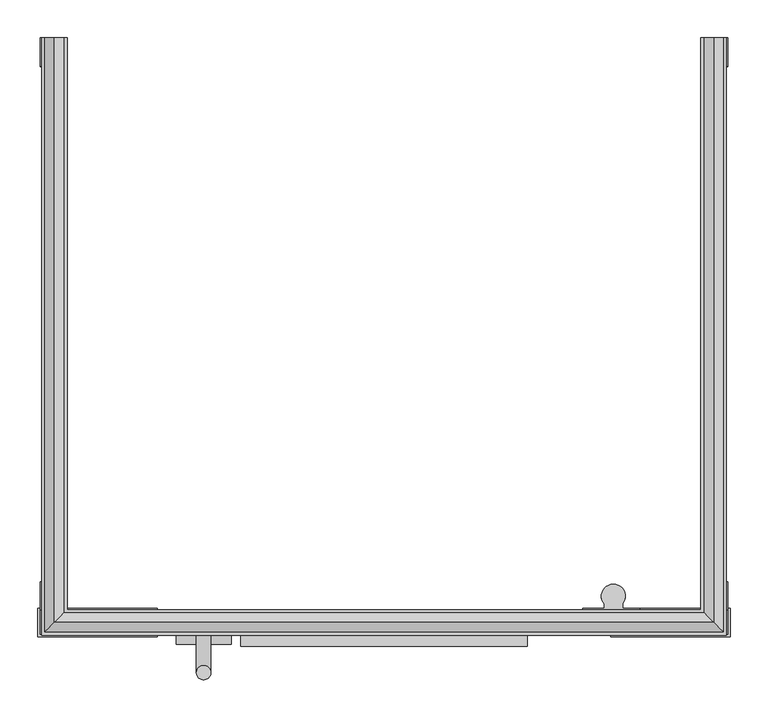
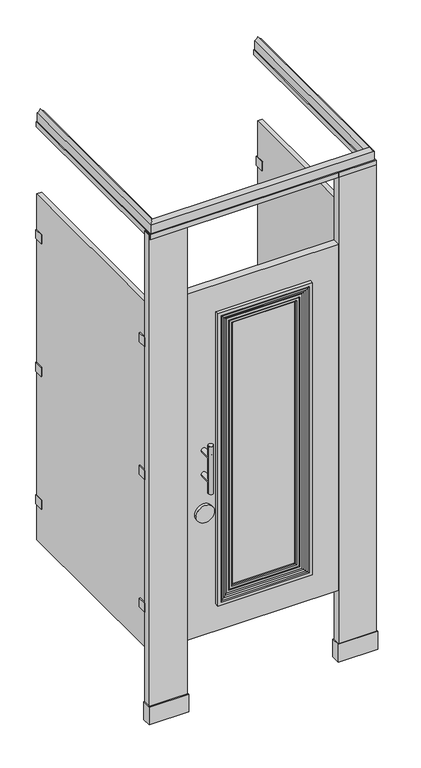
"""IFC4 building model written with IfcOpenShell, lengths in millimetres: proxy geometry, Toilet-Partition_Ironwood-Mfg_High-Pressure-Laminate : High Pressure Laminate - Headrail Braced - Molding Door."""

from ifc_helpers import new_model, si_unit, point, frame, frame_2d, origin, origin_with_axes, place, context, project, spatial, polyline, circle_curve, ellipse_curve, trimmed, segment, composite_curve, outline, extrude, source, transform, mapped, element, save
from ifc_brep_helpers import plane_surface, cylinder_surface, revolved_surface, advanced_brep


def specialty_equipment_23f0d180(model_context):
    return source(origin(), model_context, "Body", "SolidModel", [
        extrude(outline(polyline([(701.675, -758.825), (701.675, -796.925), (542.925, -796.925), (542.925, -758.825), (701.675, -758.825)])), origin_with_axes(), (0.0, 0.0, 1.0), 76.2),
        extrude(outline(polyline([(698.5, -762.0), (698.5, -793.75), (546.1, -793.75), (546.1, -762.0), (698.5, -762.0)])), origin_with_axes(), (0.0, 0.0, 1.0), 2082.8),
        extrude(outline(polyline([(-219.075, -758.825), (-60.325, -758.825), (-60.325, -796.925), (-219.075, -796.925), (-219.075, -758.825)])), origin_with_axes(), (0.0, 0.0, 1.0), 76.2),
        extrude(outline(polyline([(-215.9, -762.0), (-63.5, -762.0), (-63.5, -793.75), (-215.9, -793.75), (-215.9, -762.0)])), origin_with_axes(), (0.0, 0.0, 1.0), 2082.8),
        extrude(outline(polyline([(546.1, -793.75), (-63.5, -793.75), (-63.5, -762.0), (546.1, -762.0), (546.1, -793.75)])), frame((0.0, 0.0, 304.8), z_axis=(0.0, 0.0, 1.0), x_axis=(1.0, 0.0, 0.0)), (0.0, 0.0, 1.0), 1473.2),
        extrude(outline(composite_curve([segment(trimmed(circle_curve(frame_2d((827.0875, 1.5875)), 36.5125), [point((827.0875, -34.925))], [point((827.0875, 38.1))], False, "CARTESIAN"), True, "CONTINUOUS"), segment(trimmed(circle_curve(frame_2d((827.0875, 1.5875)), 36.5125), [point((827.0875, 38.1))], [point((827.0875, -34.925))], False, "CARTESIAN"), True, "CONTINUOUS")], self_intersect=False)), frame((0.0, -806.45, 0.0), z_axis=(0.0, 1.0, 0.0), x_axis=(0.0, 0.0, 1.0)), (0.0, 0.0, 1.0), 12.7),
        advanced_brep(
        [(-7.9375, -793.75, 1092.2), (11.1125, -793.75, 1092.2), (-7.9375, -793.75, 990.6), (11.1125, -793.75, 990.6), (11.1125, -844.55, 1092.2), (-7.9375, -844.55, 1092.2), (11.1125, -844.55, 990.6), (-7.9375, -844.55, 990.6), (-7.9375, -844.55, 1143.0), (11.1125, -844.55, 1143.0), (-7.9375, -844.55, 939.8), (11.1125, -844.55, 939.8)],
        [
            (0, 1, circle_curve(frame((1.5875, -793.75, 1092.2), z_axis=(0.0, 1.0, 0.0), x_axis=(1.0, 0.0, 0.0)), 9.525)),
            (1, 0, circle_curve(frame((1.5875, -793.75, 1092.2), z_axis=(0.0, 1.0, 0.0), x_axis=(1.0, 0.0, 0.0)), 9.525)),
            (2, 3, circle_curve(frame((1.5875, -793.75, 990.6), z_axis=(0.0, 1.0, 0.0), x_axis=(1.0, 0.0, 0.0)), 9.525)),
            (3, 2, circle_curve(frame((1.5875, -793.75, 990.6), z_axis=(0.0, 1.0, 0.0), x_axis=(1.0, 0.0, 0.0)), 9.525)),
            (1, 4),
            (4, 5, ellipse_curve(frame((1.5875, -844.55, 1092.2), z_axis=(0.0, 0.7071067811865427, 0.7071067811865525), x_axis=(0.0, -0.7071067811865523, 0.7071067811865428)), 13.4703842, 9.525)),
            (5, 0),
            (5, 4, ellipse_curve(frame((1.5875, -844.55, 1092.2), z_axis=(0.0, 0.7071067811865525, -0.7071067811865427), x_axis=(0.0, -0.7071067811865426, -0.7071067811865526)), 13.4703842, 9.525)),
            (3, 6),
            (6, 7, ellipse_curve(frame((1.5875, -844.55, 990.6), z_axis=(0.0, 0.7071067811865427, 0.7071067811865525), x_axis=(0.0, -0.7071067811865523, 0.7071067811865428)), 13.4703842, 9.525)),
            (7, 2),
            (7, 6, ellipse_curve(frame((1.5875, -844.55, 990.6), z_axis=(0.0, 0.7071067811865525, -0.7071067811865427), x_axis=(0.0, -0.7071067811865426, -0.7071067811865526)), 13.4703842, 9.525)),
            (8, 9, circle_curve(frame((1.5875, -844.55, 1143.0), z_axis=(0.0, 0.0, 1.0), x_axis=(1.0, 0.0, 0.0)), 9.525)),
            (9, 8, circle_curve(frame((1.5875, -844.55, 1143.0), z_axis=(0.0, 0.0, 1.0), x_axis=(1.0, 0.0, 0.0)), 9.525)),
            (10, 11, circle_curve(frame((1.5875, -844.55, 939.8), z_axis=(0.0, 0.0, -1.0), x_axis=(1.0, 0.0, 0.0)), 9.525)),
            (11, 10, circle_curve(frame((1.5875, -844.55, 939.8), z_axis=(0.0, 0.0, -1.0), x_axis=(1.0, 0.0, 0.0)), 9.525)),
            (8, 5),
            (5, 7),
            (7, 10),
            (11, 6),
            (6, 4),
            (4, 9),
        ],
        [
            plane_surface(frame((11.1125, -793.75, 1092.2), z_axis=(0.0, 1.0, 0.0), x_axis=(0.0, 0.0, -1.0))),
            cylinder_surface(frame((1.5875, -793.75, 1092.2), z_axis=(0.0, -1.0, 0.0), x_axis=(1.0, 0.0, 0.0)), 9.525),
            cylinder_surface(frame((1.5875, -793.75, 990.6), z_axis=(0.0, -1.0, 0.0), x_axis=(1.0, 0.0, 0.0)), 9.525),
            plane_surface(frame((11.1125, -844.55, 1143.0), z_axis=(0.0, 0.0, 1.0), x_axis=(0.0, 1.0, 0.0))),
            plane_surface(frame((11.1125, -844.55, 939.8), z_axis=(0.0, 0.0, -1.0), x_axis=(0.0, -1.0, 0.0))),
            cylinder_surface(frame((1.5875, -844.55, 939.8), z_axis=(0.0, 0.0, 1.0), x_axis=(1.0, 0.0, 0.0)), 9.525),
        ],
        [
            (0, [[1, 2]]),
            (0, [[3, 4]]),
            (1, [[-2, 5, 6, 7]]),
            (1, [[-1, -7, 8, -5]]),
            (2, [[-4, 9, 10, 11]]),
            (2, [[-3, -11, 12, -9]]),
            (3, [[13, 14]]),
            (4, [[15, 16]]),
            (5, [[-13, 17, 18, 19, -16, 20, 21, 22]]),
            (5, [[-14, -22, -8, -17]]),
            (5, [[-15, -19, -10, -20]]),
            (5, [[-18, -6, -21, -12]]),
        ],
    ),
        advanced_brep(
        [(414.5195881, -795.0073117, 1646.4195881), (415.7768998, -793.75, 1647.6768998), (415.7768998, -793.75, 435.1231002), (414.5195881, -795.0073117, 436.3804119), (382.8493103, -793.6667663, 1614.7493103), (384.1898558, -795.0073117, 1616.0898558), (384.1898558, -795.0073117, 466.7101442), (382.8493103, -793.6667663, 468.0506897), (368.3, -798.7403203, 1600.2), (368.3, -793.6667663, 1600.2), (368.3, -793.6667663, 482.6), (368.3, -798.7403203, 482.6), (371.8761431, -802.1839988, 1603.7761431), (371.8761431, -802.1839988, 479.0238569), (383.7857899, -803.6776278, 1615.6857899), (381.5195942, -802.1839988, 1613.4195942), (381.5195942, -802.1839988, 469.3804058), (383.7857899, -803.6776278, 467.1142101), (399.1420677, -804.5443603, 1631.0420677), (393.8806616, -803.6776278, 1625.7806616), (393.8806616, -803.6776278, 457.0193384), (399.1420677, -804.5443603, 451.7579323), (406.241729, -807.1284257, 1638.141729), (406.241729, -807.1284257, 444.658271), (415.3065117, -806.819399, 1647.2065117), (415.3065117, -806.819399, 435.5934883), (419.1, -809.625, 1651.0), (419.1, -809.625, 431.8), (431.8, -793.75, 1663.7), (431.8, -809.625, 1663.7), (431.8, -809.625, 419.1), (431.8, -793.75, 419.1), (66.8231002, -793.75, 435.1231002), (68.0804119, -795.0073117, 436.3804119), (98.4101442, -795.0073117, 466.7101442), (99.7506897, -793.6667663, 468.0506897), (114.3, -793.6667663, 482.6), (114.3, -798.7403203, 482.6), (110.7238569, -802.1839988, 479.0238569), (101.0804058, -802.1839988, 469.3804058), (98.8142101, -803.6776278, 467.1142101), (88.7193384, -803.6776278, 457.0193384), (83.4579323, -804.5443603, 451.7579323), (76.358271, -807.1284257, 444.658271), (67.2934883, -806.819399, 435.5934883), (63.5, -809.625, 431.8), (50.8, -809.625, 419.1), (50.8, -793.75, 419.1), (66.8231002, -793.75, 1647.6768998), (68.0804119, -795.0073117, 1646.4195881), (98.4101442, -795.0073117, 1616.0898558), (99.7506897, -793.6667663, 1614.7493103), (114.3, -793.6667663, 1600.2), (114.3, -798.7403203, 1600.2), (110.7238569, -802.1839988, 1603.7761431), (101.0804058, -802.1839988, 1613.4195942), (98.8142101, -803.6776278, 1615.6857899), (88.7193384, -803.6776278, 1625.7806616), (83.4579323, -804.5443603, 1631.0420677), (76.358271, -807.1284257, 1638.141729), (67.2934883, -806.819399, 1647.2065117), (63.5, -809.625, 1651.0), (50.8, -809.625, 1663.7), (50.8, -793.75, 1663.7)],
        [
            (0, 1),
            (1, 2),
            (2, 3),
            (3, 0),
            (4, 5),
            (5, 6),
            (6, 7),
            (7, 4),
            (8, 9),
            (9, 10),
            (10, 11),
            (11, 8),
            (12, 8, ellipse_curve(frame((371.8761431, -798.6053079, 1603.7761431), z_axis=(0.7071067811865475, 0.0, -0.7071067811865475), x_axis=(0.7071067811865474, 0.0, 0.7071067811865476)), 5.0610331, 3.5786908)),
            (11, 13, ellipse_curve(frame((371.8761431, -798.6053079, 479.0238569), z_axis=(0.7071067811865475, 0.0, 0.7071067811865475), x_axis=(-0.7071067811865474, 0.0, 0.7071067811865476)), 5.0610331, 3.5786908)),
            (13, 12),
            (14, 15, ellipse_curve(frame((383.7857899, -801.2116303, 1615.6857899), z_axis=(0.7071067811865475, 0.0, -0.7071067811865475), x_axis=(0.7071067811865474, 0.0, 0.7071067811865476)), 3.487447, 2.4659974)),
            (15, 16),
            (16, 17, ellipse_curve(frame((383.7857899, -801.2116303, 467.1142101), z_axis=(0.7071067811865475, 0.0, 0.7071067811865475), x_axis=(-0.7071067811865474, 0.0, 0.7071067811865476)), 3.487447, 2.4659974)),
            (17, 14),
            (18, 19, ellipse_curve(frame((394.2058089, -818.1066197, 1626.1058089), z_axis=(-0.7071067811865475, 0.0, 0.7071067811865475), x_axis=(-0.7071067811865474, 0.0, -0.7071067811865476)), 20.4108564, 14.432655)),
            (19, 20),
            (20, 21, ellipse_curve(frame((394.2058089, -818.1066197, 456.6941911), z_axis=(-0.7071067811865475, 0.0, -0.7071067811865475), x_axis=(0.7071067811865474, 0.0, -0.7071067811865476)), 20.4108564, 14.432655)),
            (21, 18),
            (22, 18),
            (21, 23),
            (23, 22),
            (24, 22, ellipse_curve(frame((410.3907719, -795.729024, 1642.2907719), z_axis=(0.7071067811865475, 0.0, -0.7071067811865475), x_axis=(0.7071067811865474, 0.0, 0.7071067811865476)), 17.1558104, 12.1309899)),
            (23, 25, ellipse_curve(frame((410.3907719, -795.729024, 440.5092281), z_axis=(0.7071067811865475, 0.0, 0.7071067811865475), x_axis=(-0.7071067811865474, 0.0, 0.7071067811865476)), 17.1558104, 12.1309899)),
            (25, 24),
            (26, 24, ellipse_curve(frame((419.1, -805.657588, 1651.0), z_axis=(0.7071067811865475, 0.0, -0.7071067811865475), x_axis=(0.7071067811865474, 0.0, 0.7071067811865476)), 5.6107679, 3.967412)),
            (25, 27, ellipse_curve(frame((419.1, -805.657588, 431.8), z_axis=(0.7071067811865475, 0.0, 0.7071067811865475), x_axis=(-0.7071067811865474, 0.0, 0.7071067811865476)), 5.6107679, 3.967412)),
            (27, 26),
            (28, 29),
            (29, 30),
            (30, 31),
            (31, 28),
            (2, 32),
            (32, 33),
            (33, 3),
            (6, 34),
            (34, 35),
            (35, 7),
            (10, 36),
            (36, 37),
            (37, 11),
            (37, 38, ellipse_curve(frame((110.7238569, -798.6053079, 479.0238569), z_axis=(0.7071067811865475, 0.0, -0.7071067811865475), x_axis=(0.7071067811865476, 0.0, 0.7071067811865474)), 5.0610331, 3.5786908)),
            (38, 13),
            (16, 39),
            (39, 40, ellipse_curve(frame((98.8142101, -801.2116303, 467.1142101), z_axis=(0.7071067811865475, 0.0, -0.7071067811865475), x_axis=(0.7071067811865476, 0.0, 0.7071067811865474)), 3.487447, 2.4659974)),
            (40, 17),
            (20, 41),
            (41, 42, ellipse_curve(frame((88.3941911, -818.1066197, 456.6941911), z_axis=(-0.7071067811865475, 0.0, 0.7071067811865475), x_axis=(-0.7071067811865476, 0.0, -0.7071067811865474)), 20.4108564, 14.432655)),
            (42, 21),
            (42, 43),
            (43, 23),
            (43, 44, ellipse_curve(frame((72.2092281, -795.729024, 440.5092281), z_axis=(0.7071067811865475, 0.0, -0.7071067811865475), x_axis=(0.7071067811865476, 0.0, 0.7071067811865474)), 17.1558104, 12.1309899)),
            (44, 25),
            (44, 45, ellipse_curve(frame((63.5, -805.657588, 431.8), z_axis=(0.7071067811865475, 0.0, -0.7071067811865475), x_axis=(0.7071067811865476, 0.0, 0.7071067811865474)), 5.6107679, 3.967412)),
            (45, 27),
            (30, 46),
            (46, 47),
            (47, 31),
            (32, 48),
            (48, 49),
            (49, 33),
            (34, 50),
            (50, 51),
            (51, 35),
            (36, 52),
            (52, 53),
            (53, 37),
            (53, 54, ellipse_curve(frame((110.7238569, -798.6053079, 1603.7761431), z_axis=(-0.7071067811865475, 0.0, -0.7071067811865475), x_axis=(0.7071067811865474, 0.0, -0.7071067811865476)), 5.0610331, 3.5786908)),
            (54, 38),
            (39, 55),
            (55, 56, ellipse_curve(frame((98.8142101, -801.2116303, 1615.6857899), z_axis=(-0.7071067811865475, 0.0, -0.7071067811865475), x_axis=(0.7071067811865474, 0.0, -0.7071067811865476)), 3.487447, 2.4659974)),
            (56, 40),
            (41, 57),
            (57, 58, ellipse_curve(frame((88.3941911, -818.1066197, 1626.1058089), z_axis=(0.7071067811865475, 0.0, 0.7071067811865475), x_axis=(-0.7071067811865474, 0.0, 0.7071067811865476)), 20.4108564, 14.432655)),
            (58, 42),
            (58, 59),
            (59, 43),
            (59, 60, ellipse_curve(frame((72.2092281, -795.729024, 1642.2907719), z_axis=(-0.7071067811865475, 0.0, -0.7071067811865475), x_axis=(0.7071067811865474, 0.0, -0.7071067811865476)), 17.1558104, 12.1309899)),
            (60, 44),
            (60, 61, ellipse_curve(frame((63.5, -805.657588, 1651.0), z_axis=(-0.7071067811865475, 0.0, -0.7071067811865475), x_axis=(0.7071067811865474, 0.0, -0.7071067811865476)), 5.6107679, 3.967412)),
            (61, 45),
            (46, 62),
            (62, 63),
            (63, 47),
            (63, 28),
            (1, 48),
            (0, 49),
            (5, 50),
            (4, 51),
            (9, 52),
            (8, 53),
            (12, 54),
            (15, 55),
            (14, 56),
            (19, 57),
            (18, 58),
            (22, 59),
            (24, 60),
            (26, 61),
            (29, 62),
        ],
        [
            plane_surface(frame((415.7768998, -793.75, 1647.6768998), z_axis=(-0.7071067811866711, 0.7071067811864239, 0.0), x_axis=(0.0, 0.0, -1.0))),
            plane_surface(frame((384.1898558, -795.0073117, 1616.0898558), z_axis=(0.7071067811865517, 0.7071067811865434, 0.0), x_axis=(0.0, 0.0, -1.0))),
            plane_surface(frame((368.3, -793.6667663, 1600.2), z_axis=(-1.0, 0.0, 0.0), x_axis=(0.0, 0.0, -1.0))),
            cylinder_surface(frame((371.8761431, -798.6053079, 1663.7), z_axis=(0.0, 0.0, 1.0), x_axis=(1.0, 0.0, 0.0)), 3.5786908),
            cylinder_surface(frame((383.7857899, -801.2116303, 1663.7), z_axis=(0.0, 0.0, 1.0), x_axis=(1.0, 0.0, 0.0)), 2.4659974),
            revolved_surface(polyline([(408.63846390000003, -818.1066197, 442.2615361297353), (408.63846390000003, -818.1066197, 1640.5384638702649)]), (394.2058089, -818.1066197, 1663.7), (0.0, 0.0, -1.0)),
            plane_surface(frame((399.1420677, -804.5443603, 1631.0420677), z_axis=(-0.34202014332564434, -0.9396926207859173, 0.0), x_axis=(0.0, 0.0, -1.0))),
            cylinder_surface(frame((410.3907719, -795.729024, 1663.7), z_axis=(0.0, 0.0, 1.0), x_axis=(1.0, 0.0, 0.0)), 12.1309899),
            cylinder_surface(frame((419.1, -805.657588, 1663.7), z_axis=(0.0, 0.0, 1.0), x_axis=(1.0, 0.0, 0.0)), 3.967412),
            plane_surface(frame((431.8, -809.625, 1663.7), z_axis=(1.0, 0.0, 0.0), x_axis=(0.0, 0.0, -1.0))),
            plane_surface(frame((415.7768998, -793.75, 435.1231002), z_axis=(0.0, 0.7071067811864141, 0.7071067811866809), x_axis=(-1.0, 0.0, 0.0))),
            plane_surface(frame((384.1898558, -795.0073117, 466.7101442), z_axis=(0.0, 0.7071067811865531, -0.7071067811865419), x_axis=(-1.0, 0.0, 0.0))),
            plane_surface(frame((368.3, -793.6667663, 482.6), z_axis=(0.0, 0.0, 1.0), x_axis=(-1.0, 0.0, 0.0))),
            cylinder_surface(frame((431.8, -798.6053079, 479.0238569), z_axis=(1.0, 0.0, 0.0), x_axis=(0.0, 0.0, -1.0)), 3.5786908),
            cylinder_surface(frame((431.8, -801.2116303, 467.1142101), z_axis=(1.0, 0.0, 0.0), x_axis=(0.0, 0.0, -1.0)), 2.4659974),
            revolved_surface(polyline([(73.96153612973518, -818.1066197, 442.2615361), (408.63846387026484, -818.1066197, 442.2615361)]), (431.8, -818.1066197, 456.6941911), (-1.0, 0.0, 0.0)),
            plane_surface(frame((399.1420677, -804.5443603, 451.7579323), z_axis=(0.0, -0.9396926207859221, 0.34202014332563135), x_axis=(-1.0, 0.0, 0.0))),
            cylinder_surface(frame((431.8, -795.729024, 440.5092281), z_axis=(1.0, 0.0, 0.0), x_axis=(0.0, 0.0, -1.0)), 12.1309899),
            cylinder_surface(frame((431.8, -805.657588, 431.8), z_axis=(1.0, 0.0, 0.0), x_axis=(0.0, 0.0, -1.0)), 3.967412),
            plane_surface(frame((431.8, -809.625, 419.1), z_axis=(0.0, 0.0, -1.0), x_axis=(-1.0, 0.0, 0.0))),
            plane_surface(frame((66.8231002, -793.75, 435.1231002), z_axis=(0.7071067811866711, 0.7071067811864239, 0.0), x_axis=(0.0, 0.0, 1.0))),
            plane_surface(frame((98.4101442, -795.0073117, 466.7101442), z_axis=(-0.7071067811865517, 0.7071067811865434, 0.0), x_axis=(0.0, 0.0, 1.0))),
            plane_surface(frame((114.3, -793.6667663, 482.6), z_axis=(1.0, 0.0, 0.0), x_axis=(0.0, 0.0, 1.0))),
            cylinder_surface(frame((110.7238569, -798.6053079, 419.1), z_axis=(0.0, 0.0, -1.0), x_axis=(-1.0, 0.0, 0.0)), 3.5786908),
            cylinder_surface(frame((98.8142101, -801.2116303, 419.1), z_axis=(0.0, 0.0, -1.0), x_axis=(-1.0, 0.0, 0.0)), 2.4659974),
            revolved_surface(polyline([(73.9615361, -818.1066197, 1640.5384638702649), (73.9615361, -818.1066197, 442.2615361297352)]), (88.3941911, -818.1066197, 419.1), (0.0, 0.0, 1.0)),
            plane_surface(frame((83.4579323, -804.5443603, 451.7579323), z_axis=(0.34202014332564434, -0.9396926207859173, 0.0), x_axis=(0.0, 0.0, 1.0))),
            cylinder_surface(frame((72.2092281, -795.729024, 419.1), z_axis=(0.0, 0.0, -1.0), x_axis=(-1.0, 0.0, 0.0)), 12.1309899),
            cylinder_surface(frame((63.5, -805.657588, 419.1), z_axis=(0.0, 0.0, -1.0), x_axis=(-1.0, 0.0, 0.0)), 3.967412),
            plane_surface(frame((50.8, -809.625, 419.1), z_axis=(-1.0, 0.0, 0.0), x_axis=(0.0, 0.0, 1.0))),
            plane_surface(frame((50.8, -793.75, 1663.7), z_axis=(0.0, 1.0, 0.0), x_axis=(1.0, 0.0, 0.0))),
            plane_surface(frame((66.8231002, -793.75, 1647.6768998), z_axis=(0.0, 0.7071067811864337, -0.7071067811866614), x_axis=(1.0, 0.0, 0.0))),
            plane_surface(frame((68.0804119, -795.0073117, 1646.4195881), z_axis=(0.0, 1.0, 0.0), x_axis=(1.0, 0.0, 0.0))),
            plane_surface(frame((98.4101442, -795.0073117, 1616.0898558), z_axis=(0.0, 0.7071067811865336, 0.7071067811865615), x_axis=(1.0, 0.0, 0.0))),
            plane_surface(frame((99.7506897, -793.6667663, 1614.7493103), z_axis=(0.0, 1.0, 0.0), x_axis=(1.0, 0.0, 0.0))),
            plane_surface(frame((114.3, -793.6667663, 1600.2), z_axis=(0.0, 0.0, -1.0), x_axis=(1.0, 0.0, 0.0))),
            cylinder_surface(frame((50.8, -798.6053079, 1603.7761431), z_axis=(-1.0, 0.0, 0.0), x_axis=(0.0, 0.0, 1.0)), 3.5786908),
            plane_surface(frame((110.7238569, -802.1839988, 1603.7761431), z_axis=(0.0, -1.0, 0.0), x_axis=(1.0, 0.0, 0.0))),
            cylinder_surface(frame((50.8, -801.2116303, 1615.6857899), z_axis=(-1.0, 0.0, 0.0), x_axis=(0.0, 0.0, 1.0)), 2.4659974),
            plane_surface(frame((98.8142101, -803.6776278, 1615.6857899), z_axis=(0.0, -1.0, 0.0), x_axis=(1.0, 0.0, 0.0))),
            revolved_surface(polyline([(408.63846387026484, -818.1066197, 1640.5384639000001), (73.96153612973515, -818.1066197, 1640.5384639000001)]), (50.8, -818.1066197, 1626.1058089), (1.0, 0.0, 0.0)),
            plane_surface(frame((83.4579323, -804.5443603, 1631.0420677), z_axis=(0.0, -0.9396926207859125, -0.34202014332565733), x_axis=(1.0, 0.0, 0.0))),
            cylinder_surface(frame((50.8, -795.729024, 1642.2907719), z_axis=(-1.0, 0.0, 0.0), x_axis=(0.0, 0.0, 1.0)), 12.1309899),
            cylinder_surface(frame((50.8, -805.657588, 1651.0), z_axis=(-1.0, 0.0, 0.0), x_axis=(0.0, 0.0, 1.0)), 3.967412),
            plane_surface(frame((63.5, -809.625, 1651.0), z_axis=(0.0, -1.0, 0.0), x_axis=(1.0, 0.0, 0.0))),
            plane_surface(frame((50.8, -809.625, 1663.7), z_axis=(0.0, 0.0, 1.0), x_axis=(1.0, 0.0, 0.0))),
        ],
        [
            (0, [[1, 2, 3, 4]]),
            (1, [[5, 6, 7, 8]]),
            (2, [[9, 10, 11, 12]]),
            (3, [[13, -12, 14, 15]]),
            (4, [[16, 17, 18, 19]]),
            (5, [[20, 21, 22, 23]]),
            (6, [[24, -23, 25, 26]]),
            (7, [[27, -26, 28, 29]]),
            (8, [[30, -29, 31, 32]]),
            (9, [[33, 34, 35, 36]]),
            (10, [[-3, 37, 38, 39]]),
            (11, [[-7, 40, 41, 42]]),
            (12, [[-11, 43, 44, 45]]),
            (13, [[-14, -45, 46, 47]]),
            (14, [[-18, 48, 49, 50]]),
            (15, [[-22, 51, 52, 53]]),
            (16, [[-25, -53, 54, 55]]),
            (17, [[-28, -55, 56, 57]]),
            (18, [[-31, -57, 58, 59]]),
            (19, [[-35, 60, 61, 62]]),
            (20, [[-38, 63, 64, 65]]),
            (21, [[-41, 66, 67, 68]]),
            (22, [[-44, 69, 70, 71]]),
            (23, [[-46, -71, 72, 73]]),
            (24, [[-49, 74, 75, 76]]),
            (25, [[-52, 77, 78, 79]]),
            (26, [[-54, -79, 80, 81]]),
            (27, [[-56, -81, 82, 83]]),
            (28, [[-58, -83, 84, 85]]),
            (29, [[-61, 86, 87, 88]]),
            (30, [[-62, -88, 89, -36], [90, -63, -37, -2]]),
            (31, [[-64, -90, -1, 91]]),
            (32, [[-39, -65, -91, -4], [92, -66, -40, -6]]),
            (33, [[-67, -92, -5, 93]]),
            (34, [[-42, -68, -93, -8], [94, -69, -43, -10]]),
            (35, [[-70, -94, -9, 95]]),
            (36, [[-72, -95, -13, 96]]),
            (37, [[97, -74, -48, -17], [-47, -73, -96, -15]]),
            (38, [[-75, -97, -16, 98]]),
            (39, [[99, -77, -51, -21], [-50, -76, -98, -19]]),
            (40, [[-78, -99, -20, 100]]),
            (41, [[-80, -100, -24, 101]]),
            (42, [[-82, -101, -27, 102]]),
            (43, [[-84, -102, -30, 103]]),
            (44, [[104, -86, -60, -34], [-59, -85, -103, -32]]),
            (45, [[-87, -104, -33, -89]]),
        ],
    ),
        extrude(outline(composite_curve([segment(polyline([(581.3737081, -762.0), (505.1737081, -762.0), (505.1737081, -758.825), (533.7487081, -758.825), (533.7487081, -752.9581331)]), True, "CONTINUOUS"), segment(trimmed(circle_curve(frame_2d((546.1, -742.8902139)), 15.9347861), [point((533.7487081, -752.9581331))], [point((558.4512919, -752.9581331))], False, "CARTESIAN"), True, "CONTINUOUS"), segment(polyline([(558.4512919, -752.9581331), (558.4512919, -758.825), (581.3737081, -758.825), (581.3737081, -762.0)]), True, "CONTINUOUS")], self_intersect=False)), frame((0.0, 0.0, 1574.8), z_axis=(0.0, 0.0, 1.0), x_axis=(1.0, 0.0, 0.0)), (0.0, 0.0, 1.0), 63.5),
        extrude(outline(composite_curve([segment(polyline([(581.3737081, -762.0), (505.1737081, -762.0), (505.1737081, -758.825), (533.7487081, -758.825), (533.7487081, -752.9581331)]), True, "CONTINUOUS"), segment(trimmed(circle_curve(frame_2d((546.1, -742.8902139)), 15.9347861), [point((533.7487081, -752.9581331))], [point((558.4512919, -752.9581331))], False, "CARTESIAN"), True, "CONTINUOUS"), segment(polyline([(558.4512919, -752.9581331), (558.4512919, -758.825), (581.3737081, -758.825), (581.3737081, -762.0)]), True, "CONTINUOUS")], self_intersect=False)), frame((0.0, 0.0, 1009.6500001), z_axis=(0.0, 0.0, 1.0), x_axis=(1.0, 0.0, 0.0)), (0.0, 0.0, 1.0), 63.5),
        extrude(outline(composite_curve([segment(polyline([(581.3737081, -762.0), (505.1737081, -762.0), (505.1737081, -758.825), (533.7487081, -758.825), (533.7487081, -752.9581331)]), True, "CONTINUOUS"), segment(trimmed(circle_curve(frame_2d((546.1, -742.8902139)), 15.9347861), [point((533.7487081, -752.9581331))], [point((558.4512919, -752.9581331))], False, "CARTESIAN"), True, "CONTINUOUS"), segment(polyline([(558.4512919, -752.9581331), (558.4512919, -758.825), (581.3737081, -758.825), (581.3737081, -762.0)]), True, "CONTINUOUS")], self_intersect=False)), frame((0.0, 0.0, 444.5), z_axis=(0.0, 0.0, 1.0), x_axis=(1.0, 0.0, 0.0)), (0.0, 0.0, 1.0), 63.5),
        extrude(outline(polyline([(676.148, -723.9), (676.148, -758.825), (695.198, -758.825), (695.198, -723.9), (698.373, -723.9), (698.373, -762.0), (672.973, -762.0), (672.973, -723.9), (676.148, -723.9)])), frame((0.0, 0.0, 1587.8188137), z_axis=(0.0, 0.0, 1.0), x_axis=(1.0, 0.0, 0.0)), (0.0, 0.0, 1.0), 38.1),
        extrude(outline(polyline([(676.148, -38.1), (672.973, -38.1), (672.973, 0.0), (698.373, 0.0), (698.373, -38.1), (695.198, -38.1), (695.198, -3.175), (676.148, -3.175), (676.148, -38.1)])), frame((0.0, 0.0, 1587.8188137), z_axis=(0.0, 0.0, 1.0), x_axis=(1.0, 0.0, 0.0)), (0.0, 0.0, 1.0), 38.1),
        extrude(outline(polyline([(676.148, -723.9), (676.148, -758.825), (695.198, -758.825), (695.198, -723.9), (698.373, -723.9), (698.373, -762.0), (672.973, -762.0), (672.973, -723.9), (676.148, -723.9)])), frame((0.0, 0.0, 1022.35), z_axis=(0.0, 0.0, 1.0), x_axis=(1.0, 0.0, 0.0)), (0.0, 0.0, 1.0), 38.1),
        extrude(outline(polyline([(676.148, -38.1), (672.973, -38.1), (672.973, 0.0), (698.373, 0.0), (698.373, -38.1), (695.198, -38.1), (695.198, -3.175), (676.148, -3.175), (676.148, -38.1)])), frame((0.0, 0.0, 1022.35), z_axis=(0.0, 0.0, 1.0), x_axis=(1.0, 0.0, 0.0)), (0.0, 0.0, 1.0), 38.1),
        extrude(outline(polyline([(676.148, -723.9), (676.148, -758.825), (695.198, -758.825), (695.198, -723.9), (698.373, -723.9), (698.373, -762.0), (672.973, -762.0), (672.973, -723.9), (676.148, -723.9)])), frame((0.0, 0.0, 457.2), z_axis=(0.0, 0.0, 1.0), x_axis=(1.0, 0.0, 0.0)), (0.0, 0.0, 1.0), 38.1),
        extrude(outline(polyline([(676.148, -38.1), (672.973, -38.1), (672.973, 0.0), (698.373, 0.0), (698.373, -38.1), (695.198, -38.1), (695.198, -3.175), (676.148, -3.175), (676.148, -38.1)])), frame((0.0, 0.0, 457.2), z_axis=(0.0, 0.0, 1.0), x_axis=(1.0, 0.0, 0.0)), (0.0, 0.0, 1.0), 38.1),
        extrude(outline(polyline([(-212.598, -723.9), (-212.598, -758.825), (-193.548, -758.825), (-193.548, -723.9), (-190.373, -723.9), (-190.373, -762.0), (-215.773, -762.0), (-215.773, -723.9), (-212.598, -723.9)])), frame((0.0, 0.0, 1587.8188137), z_axis=(0.0, 0.0, 1.0), x_axis=(1.0, 0.0, 0.0)), (0.0, 0.0, 1.0), 38.1),
        extrude(outline(polyline([(-212.598, -38.1), (-215.773, -38.1), (-215.773, 0.0), (-190.373, 0.0), (-190.373, -38.1), (-193.548, -38.1), (-193.548, -3.175), (-212.598, -3.175), (-212.598, -38.1)])), frame((0.0, 0.0, 1587.8188137), z_axis=(0.0, 0.0, 1.0), x_axis=(1.0, 0.0, 0.0)), (0.0, 0.0, 1.0), 38.1),
        extrude(outline(polyline([(-212.598, -723.9), (-212.598, -758.825), (-193.548, -758.825), (-193.548, -723.9), (-190.373, -723.9), (-190.373, -762.0), (-215.773, -762.0), (-215.773, -723.9), (-212.598, -723.9)])), frame((0.0, 0.0, 1022.35), z_axis=(0.0, 0.0, 1.0), x_axis=(1.0, 0.0, 0.0)), (0.0, 0.0, 1.0), 38.1),
        extrude(outline(polyline([(-212.598, -38.1), (-215.773, -38.1), (-215.773, 0.0), (-190.373, 0.0), (-190.373, -38.1), (-193.548, -38.1), (-193.548, -3.175), (-212.598, -3.175), (-212.598, -38.1)])), frame((0.0, 0.0, 1022.35), z_axis=(0.0, 0.0, 1.0), x_axis=(1.0, 0.0, 0.0)), (0.0, 0.0, 1.0), 38.1),
        extrude(outline(polyline([(-212.598, -723.9), (-212.598, -758.825), (-193.548, -758.825), (-193.548, -723.9), (-190.373, -723.9), (-190.373, -762.0), (-215.773, -762.0), (-215.773, -723.9), (-212.598, -723.9)])), frame((0.0, 0.0, 457.2), z_axis=(0.0, 0.0, 1.0), x_axis=(1.0, 0.0, 0.0)), (0.0, 0.0, 1.0), 38.1),
        extrude(outline(polyline([(-212.598, -38.1), (-215.773, -38.1), (-215.773, 0.0), (-190.373, 0.0), (-190.373, -38.1), (-193.548, -38.1), (-193.548, -3.175), (-212.598, -3.175), (-212.598, -38.1)])), frame((0.0, 0.0, 457.2), z_axis=(0.0, 0.0, 1.0), x_axis=(1.0, 0.0, 0.0)), (0.0, 0.0, 1.0), 38.1),
        extrude(outline(polyline([(-193.548, -3.175), (-193.548, -758.825), (-212.598, -758.825), (-212.598, -3.175), (-193.548, -3.175)])), frame((0.0, 0.0, 304.8), z_axis=(0.0, 0.0, 1.0), x_axis=(1.0, 0.0, 0.0)), (0.0, 0.0, 1.0), 1473.2),
        extrude(outline(polyline([(695.198, -3.175), (695.198, -758.825), (676.148, -758.825), (676.148, -3.175), (695.198, -3.175)])), frame((0.0, 0.0, 304.8), z_axis=(0.0, 0.0, 1.0), x_axis=(1.0, 0.0, 0.0)), (0.0, 0.0, 1.0), 1473.2),
        advanced_brep(
        [(663.448, 0.0, 2063.75), (662.257375, 0.0, 2063.75), (662.257375, 0.0, 2083.990625), (666.623, 0.0, 2083.990625), (666.623, 0.0, 2120.9), (679.323, 0.0, 2133.6), (692.023, 0.0, 2120.9), (692.023, 0.0, 2083.990625), (696.388625, 0.0, 2083.990625), (696.388625, 0.0, 2063.75), (695.198, 0.0, 2063.75), (695.198, 0.0, 2082.8), (663.448, 0.0, 2082.8), (667.813625, 0.0, 2119.709375), (667.813625, 0.0, 2083.990625), (690.832375, 0.0, 2083.990625), (690.832375, 0.0, 2119.709375), (679.323, 0.0, 2131.21875), (663.448, -762.0, 2063.75), (663.448, -762.0, 2082.8), (-180.848, -762.0, 2082.8), (-180.848, -762.0, 2063.75), (695.198, -793.75, 2082.8), (695.198, -793.75, 2063.75), (-212.598, -793.75, 2063.75), (-212.598, -793.75, 2082.8), (696.388625, -794.940625, 2063.75), (696.388625, -794.940625, 2083.990625), (-213.788625, -794.940625, 2083.990625), (-213.788625, -794.940625, 2063.75), (692.023, -790.575, 2083.990625), (692.023, -790.575, 2120.9), (-209.423, -790.575, 2120.9), (-209.423, -790.575, 2083.990625), (679.323, -777.875, 2133.6), (-196.723, -777.875, 2133.6), (666.623, -765.175, 2120.9), (-184.023, -765.175, 2120.9), (666.623, -765.175, 2083.990625), (-184.023, -765.175, 2083.990625), (662.257375, -760.809375, 2083.990625), (662.257375, -760.809375, 2063.75), (-179.657375, -760.809375, 2063.75), (-179.657375, -760.809375, 2083.990625), (667.813625, -766.365625, 2119.709375), (679.323, -777.875, 2131.21875), (-196.723, -777.875, 2131.21875), (-185.213625, -766.365625, 2119.709375), (690.832375, -789.384375, 2119.709375), (-208.232375, -789.384375, 2119.709375), (690.832375, -789.384375, 2083.990625), (-208.232375, -789.384375, 2083.990625), (667.813625, -766.365625, 2083.990625), (-185.213625, -766.365625, 2083.990625), (-180.848, 0.0, 2063.75), (-180.848, 0.0, 2082.8), (-212.598, 0.0, 2082.8), (-212.598, 0.0, 2063.75), (-213.788625, 0.0, 2063.75), (-213.788625, 0.0, 2083.990625), (-209.423, 0.0, 2083.990625), (-209.423, 0.0, 2120.9), (-196.723, 0.0, 2133.6), (-184.023, 0.0, 2120.9), (-184.023, 0.0, 2083.990625), (-179.657375, 0.0, 2083.990625), (-179.657375, 0.0, 2063.75), (-185.213625, 0.0, 2119.709375), (-196.723, 0.0, 2131.21875), (-208.232375, 0.0, 2119.709375), (-208.232375, 0.0, 2083.990625), (-185.213625, 0.0, 2083.990625)],
        [
            (0, 1),
            (1, 2),
            (2, 3),
            (3, 4),
            (4, 5, circle_curve(frame((649.9091809, 0.0, 2150.3138191), z_axis=(0.0, -1.0, 0.0), x_axis=(1.0, 0.0, 0.0)), 33.8308218)),
            (5, 6, circle_curve(frame((708.7368191, 0.0, 2150.3138191), z_axis=(0.0, -1.0, 0.0), x_axis=(1.0, 0.0, 0.0)), 33.8308218)),
            (6, 7),
            (7, 8),
            (8, 9),
            (9, 10),
            (10, 11),
            (11, 12),
            (12, 0),
            (13, 14),
            (14, 15),
            (15, 16),
            (16, 17, circle_curve(frame((709.9824574, 0.0, 2150.3688324), z_axis=(0.0, 1.0, 0.0), x_axis=(1.0, 0.0, 0.0)), 36.1486927)),
            (17, 13, circle_curve(frame((648.6635426, 0.0, 2150.3688324), z_axis=(0.0, 1.0, 0.0), x_axis=(1.0, 0.0, 0.0)), 36.1486927)),
            (18, 19),
            (19, 20),
            (20, 21),
            (21, 18),
            (22, 23),
            (23, 24),
            (24, 25),
            (25, 22),
            (26, 27),
            (27, 28),
            (28, 29),
            (29, 26),
            (30, 31),
            (31, 32),
            (32, 33),
            (33, 30),
            (31, 34, ellipse_curve(frame((708.7368191, -807.2888191, 2150.3138191), z_axis=(0.7071067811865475, 0.7071067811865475, 0.0), x_axis=(-0.7071067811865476, 0.7071067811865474, 0.0)), 47.844007, 33.8308218)),
            (34, 35),
            (35, 32, ellipse_curve(frame((-226.1368191, -807.2888191, 2150.3138191), z_axis=(-0.7071067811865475, 0.7071067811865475, 0.0), x_axis=(-0.7071067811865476, -0.7071067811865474, 0.0)), 47.844007, 33.8308218)),
            (34, 36, ellipse_curve(frame((649.9091809, -748.4611809, 2150.3138191), z_axis=(0.7071067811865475, 0.7071067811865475, 0.0), x_axis=(-0.7071067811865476, 0.7071067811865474, 0.0)), 47.844007, 33.8308218)),
            (36, 37),
            (37, 35, ellipse_curve(frame((-167.3091809, -748.4611809, 2150.3138191), z_axis=(-0.7071067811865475, 0.7071067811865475, 0.0), x_axis=(-0.7071067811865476, -0.7071067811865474, 0.0)), 47.844007, 33.8308218)),
            (36, 38),
            (38, 39),
            (39, 37),
            (40, 41),
            (41, 42),
            (42, 43),
            (43, 40),
            (44, 45, ellipse_curve(frame((648.6635426, -747.2155426, 2150.3688324), z_axis=(-0.7071067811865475, -0.7071067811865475, 0.0), x_axis=(0.7071067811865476, -0.7071067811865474, 0.0)), 51.1219715, 36.1486927)),
            (45, 46),
            (46, 47, ellipse_curve(frame((-166.0635426, -747.2155426, 2150.3688324), z_axis=(0.7071067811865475, -0.7071067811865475, 0.0), x_axis=(0.7071067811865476, 0.7071067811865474, 0.0)), 51.1219715, 36.1486927)),
            (47, 44),
            (45, 48, ellipse_curve(frame((709.9824574, -808.5344574, 2150.3688324), z_axis=(-0.7071067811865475, -0.7071067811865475, 0.0), x_axis=(0.7071067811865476, -0.7071067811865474, 0.0)), 51.1219715, 36.1486927)),
            (48, 49),
            (49, 46, ellipse_curve(frame((-227.3824574, -808.5344574, 2150.3688324), z_axis=(0.7071067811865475, -0.7071067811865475, 0.0), x_axis=(0.7071067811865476, 0.7071067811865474, 0.0)), 51.1219715, 36.1486927)),
            (48, 50),
            (50, 51),
            (51, 49),
            (52, 44),
            (47, 53),
            (53, 52),
            (54, 55),
            (55, 56),
            (56, 57),
            (57, 58),
            (58, 59),
            (59, 60),
            (60, 61),
            (61, 62, circle_curve(frame((-226.1368191, 0.0, 2150.3138191), z_axis=(0.0, -1.0, 0.0), x_axis=(-1.0, 0.0, 0.0)), 33.8308218)),
            (62, 63, circle_curve(frame((-167.3091809, 0.0, 2150.3138191), z_axis=(0.0, -1.0, 0.0), x_axis=(-1.0, 0.0, 0.0)), 33.8308218)),
            (63, 64),
            (64, 65),
            (65, 66),
            (66, 54),
            (67, 68, circle_curve(frame((-166.0635426, 0.0, 2150.3688324), z_axis=(0.0, 1.0, 0.0), x_axis=(-1.0, 0.0, 0.0)), 36.1486927)),
            (68, 69, circle_curve(frame((-227.3824574, 0.0, 2150.3688324), z_axis=(0.0, 1.0, 0.0), x_axis=(-1.0, 0.0, 0.0)), 36.1486927)),
            (69, 70),
            (70, 71),
            (71, 67),
            (20, 55),
            (54, 21),
            (24, 57),
            (56, 25),
            (28, 59),
            (58, 29),
            (32, 61),
            (60, 33),
            (35, 62),
            (37, 63),
            (39, 64),
            (42, 66),
            (65, 43),
            (46, 68),
            (67, 47),
            (49, 69),
            (51, 70),
            (71, 53),
            (0, 18),
            (41, 1),
            (40, 2),
            (38, 3),
            (36, 4),
            (34, 5),
            (31, 6),
            (30, 7),
            (27, 8),
            (26, 9),
            (23, 10),
            (22, 11),
            (19, 12),
            (13, 44),
            (52, 14),
            (50, 15),
            (48, 16),
            (45, 17),
        ],
        [
            plane_surface(frame((695.198, 0.0, 0.0), z_axis=(0.0, 1.0, 0.0), x_axis=(0.0, 0.0, 1.0))),
            plane_surface(frame((663.448, -762.0, 2082.8), z_axis=(0.0, -1.0, 0.0), x_axis=(-1.0, 0.0, 0.0))),
            plane_surface(frame((695.198, -793.75, 2063.75), z_axis=(0.0, 1.0, 0.0), x_axis=(-1.0, 0.0, 0.0))),
            plane_surface(frame((696.388625, -794.940625, 2083.990625), z_axis=(0.0, -1.0, 0.0), x_axis=(-1.0, 0.0, 0.0))),
            plane_surface(frame((692.023, -790.575, 2120.9), z_axis=(0.0, -1.0, 0.0), x_axis=(-1.0, 0.0, 0.0))),
            revolved_surface(polyline([(-259.9676408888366, -841.1196408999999, 2150.3138191), (742.5676408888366, -841.1196408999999, 2150.3138191)]), (695.198, -807.2888191, 2150.3138191), (-1.0, 0.0, 0.0)),
            revolved_surface(polyline([(-201.1400026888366, -782.2920027, 2150.3138191), (683.7400026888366, -782.2920027, 2150.3138191)]), (695.198, -748.4611809, 2150.3138191), (-1.0, 0.0, 0.0)),
            plane_surface(frame((666.623, -765.175, 2083.990625), z_axis=(0.0, 1.0, 0.0), x_axis=(-1.0, 0.0, 0.0))),
            plane_surface(frame((662.257375, -760.809375, 2063.75), z_axis=(0.0, 1.0, 0.0), x_axis=(-1.0, 0.0, 0.0))),
            cylinder_surface(frame((695.198, -747.2155426, 2150.3688324), z_axis=(1.0, 0.0, 0.0), x_axis=(0.0, -1.0, 0.0)), 36.1486927),
            cylinder_surface(frame((695.198, -808.5344574, 2150.3688324), z_axis=(1.0, 0.0, 0.0), x_axis=(0.0, -1.0, 0.0)), 36.1486927),
            plane_surface(frame((690.832375, -789.384375, 2083.990625), z_axis=(0.0, 1.0, 0.0), x_axis=(-1.0, 0.0, 0.0))),
            plane_surface(frame((667.813625, -766.365625, 2119.709375), z_axis=(0.0, -1.0, 0.0), x_axis=(-1.0, 0.0, 0.0))),
            plane_surface(frame((-212.598, 0.0, 0.0), z_axis=(0.0, 1.0, 0.0), x_axis=(0.0, 0.0, 1.0))),
            plane_surface(frame((-180.848, -762.0, 2082.8), z_axis=(-1.0, 0.0, 0.0), x_axis=(0.0, 1.0, 0.0))),
            plane_surface(frame((-212.598, -793.75, 2063.75), z_axis=(1.0, 0.0, 0.0), x_axis=(0.0, 1.0, 0.0))),
            plane_surface(frame((-213.788625, -794.940625, 2083.990625), z_axis=(-1.0, 0.0, 0.0), x_axis=(0.0, 1.0, 0.0))),
            plane_surface(frame((-209.423, -790.575, 2120.9), z_axis=(-1.0, 0.0, 0.0), x_axis=(0.0, 1.0, 0.0))),
            revolved_surface(polyline([(-259.9676409, 0.0, 2150.3138191), (-259.9676409, -841.1196408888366, 2150.3138191)]), (-226.1368191, -793.75, 2150.3138191), (0.0, 1.0, 0.0)),
            revolved_surface(polyline([(-201.1400027, 0.0, 2150.3138191), (-201.1400027, -782.2920026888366, 2150.3138191)]), (-167.3091809, -793.75, 2150.3138191), (0.0, 1.0, 0.0)),
            plane_surface(frame((-184.023, -765.175, 2083.990625), z_axis=(1.0, 0.0, 0.0), x_axis=(0.0, 1.0, 0.0))),
            plane_surface(frame((-179.657375, -760.809375, 2063.75), z_axis=(1.0, 0.0, 0.0), x_axis=(0.0, 1.0, 0.0))),
            cylinder_surface(frame((-166.0635426, -793.75, 2150.3688324), z_axis=(0.0, -1.0, 0.0), x_axis=(-1.0, 0.0, 0.0)), 36.1486927),
            cylinder_surface(frame((-227.3824574, -793.75, 2150.3688324), z_axis=(0.0, -1.0, 0.0), x_axis=(-1.0, 0.0, 0.0)), 36.1486927),
            plane_surface(frame((-208.232375, -789.384375, 2083.990625), z_axis=(1.0, 0.0, 0.0), x_axis=(0.0, 1.0, 0.0))),
            plane_surface(frame((-185.213625, -766.365625, 2119.709375), z_axis=(-1.0, 0.0, 0.0), x_axis=(0.0, 1.0, 0.0))),
            plane_surface(frame((663.448, 0.0, 2063.75), z_axis=(0.0, 0.0, -1.0), x_axis=(0.0, -1.0, 0.0))),
            plane_surface(frame((662.257375, 0.0, 2063.75), z_axis=(-1.0, 0.0, 0.0), x_axis=(0.0, -1.0, 0.0))),
            plane_surface(frame((662.257375, 0.0, 2083.990625), z_axis=(0.0, 0.0, 1.0), x_axis=(0.0, -1.0, 0.0))),
            plane_surface(frame((666.623, 0.0, 2083.990625), z_axis=(-1.0, 0.0, 0.0), x_axis=(0.0, -1.0, 0.0))),
            revolved_surface(polyline([(683.7400027, -782.2920026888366, 2150.3138191), (683.7400027, 0.0, 2150.3138191)]), (649.9091809, 0.0, 2150.3138191), (0.0, -1.0, 0.0)),
            revolved_surface(polyline([(742.5676409, -841.1196408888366, 2150.3138191), (742.5676409, 0.0, 2150.3138191)]), (708.7368191, 0.0, 2150.3138191), (0.0, -1.0, 0.0)),
            plane_surface(frame((692.023, 0.0, 2120.9), z_axis=(1.0, 0.0, 0.0), x_axis=(0.0, -1.0, 0.0))),
            plane_surface(frame((692.023, 0.0, 2083.990625), z_axis=(0.0, 0.0, 1.0), x_axis=(0.0, -1.0, 0.0))),
            plane_surface(frame((696.388625, 0.0, 2083.990625), z_axis=(1.0, 0.0, 0.0), x_axis=(0.0, -1.0, 0.0))),
            plane_surface(frame((696.388625, 0.0, 2063.75), z_axis=(0.0, 0.0, -1.0), x_axis=(0.0, -1.0, 0.0))),
            plane_surface(frame((695.198, 0.0, 2063.75), z_axis=(-1.0, 0.0, 0.0), x_axis=(0.0, -1.0, 0.0))),
            plane_surface(frame((695.198, 0.0, 2082.8), z_axis=(0.0, 0.0, -1.0), x_axis=(0.0, -1.0, 0.0))),
            plane_surface(frame((663.448, 0.0, 2082.8), z_axis=(1.0, 0.0, 0.0), x_axis=(0.0, -1.0, 0.0))),
            plane_surface(frame((667.813625, 0.0, 2119.709375), z_axis=(1.0, 0.0, 0.0), x_axis=(0.0, -1.0, 0.0))),
            plane_surface(frame((667.813625, 0.0, 2083.990625), z_axis=(0.0, 0.0, 1.0), x_axis=(0.0, -1.0, 0.0))),
            plane_surface(frame((690.832375, 0.0, 2083.990625), z_axis=(-1.0, 0.0, 0.0), x_axis=(0.0, -1.0, 0.0))),
            cylinder_surface(frame((709.9824574, 0.0, 2150.3688324), z_axis=(0.0, 1.0, 0.0), x_axis=(1.0, 0.0, 0.0)), 36.1486927),
            cylinder_surface(frame((648.6635426, 0.0, 2150.3688324), z_axis=(0.0, 1.0, 0.0), x_axis=(1.0, 0.0, 0.0)), 36.1486927),
        ],
        [
            (0, [[1, 2, 3, 4, 5, 6, 7, 8, 9, 10, 11, 12, 13], [14, 15, 16, 17, 18]]),
            (1, [[19, 20, 21, 22]]),
            (2, [[23, 24, 25, 26]]),
            (3, [[27, 28, 29, 30]]),
            (4, [[31, 32, 33, 34]]),
            (5, [[35, 36, 37, -32]]),
            (6, [[38, 39, 40, -36]]),
            (7, [[41, 42, 43, -39]]),
            (8, [[44, 45, 46, 47]]),
            (9, [[48, 49, 50, 51]]),
            (10, [[52, 53, 54, -49]]),
            (11, [[55, 56, 57, -53]]),
            (12, [[58, -51, 59, 60]]),
            (13, [[61, 62, 63, 64, 65, 66, 67, 68, 69, 70, 71, 72, 73], [74, 75, 76, 77, 78]]),
            (14, [[-21, 79, -61, 80]]),
            (15, [[-25, 81, -63, 82]]),
            (16, [[-29, 83, -65, 84]]),
            (17, [[-33, 85, -67, 86]]),
            (18, [[-37, 87, -68, -85]]),
            (19, [[-40, 88, -69, -87]]),
            (20, [[-43, 89, -70, -88]]),
            (21, [[-46, 90, -72, 91]]),
            (22, [[-50, 92, -74, 93]]),
            (23, [[-54, 94, -75, -92]]),
            (24, [[-57, 95, -76, -94]]),
            (25, [[-59, -93, -78, 96]]),
            (26, [[-1, 97, -22, -80, -73, -90, -45, 98]]),
            (27, [[-2, -98, -44, 99]]),
            (28, [[-3, -99, -47, -91, -71, -89, -42, 100]]),
            (29, [[-4, -100, -41, 101]]),
            (30, [[-5, -101, -38, 102]]),
            (31, [[-6, -102, -35, 103]]),
            (32, [[-7, -103, -31, 104]]),
            (33, [[-8, -104, -34, -86, -66, -83, -28, 105]]),
            (34, [[-9, -105, -27, 106]]),
            (35, [[-10, -106, -30, -84, -64, -81, -24, 107]]),
            (36, [[-11, -107, -23, 108]]),
            (37, [[-12, -108, -26, -82, -62, -79, -20, 109]]),
            (38, [[-13, -109, -19, -97]]),
            (39, [[-14, 110, -58, 111]]),
            (40, [[-15, -111, -60, -96, -77, -95, -56, 112]]),
            (41, [[-16, -112, -55, 113]]),
            (42, [[-17, -113, -52, 114]]),
            (43, [[-18, -114, -48, -110]]),
        ],
    ),
    ])


if __name__ == "__main__":
    model = new_model("IFC4")
    model_context = context("Model", 3, world=origin())
    ifc_project = project(units=[si_unit("LENGTHUNIT", "METRE", prefix="MILLI")], contexts=[model_context])
    site = spatial("IfcSite", under=ifc_project)
    building = spatial("IfcBuilding", under=site)
    placement = place(None, origin())
    specialty_equipment_shape = specialty_equipment_23f0d180(model_context)
    element("IfcBuildingElementProxy", 1, Name="Toilet-Partition_Ironwood-Mfg_High-Pressure-Laminate : High Pressure Laminate - Headrail Braced - Molding Door", ObjectType="Toilet-Partition_Ironwood-Mfg_High-Pressure-Laminate : High Pressure Laminate - Headrail Braced - Molding Door", at=placement, inside=building, context=model_context, shape_type="MappedRepresentation", body=[
        mapped(specialty_equipment_shape, transform((0.0, 0.0, 0.0), x_axis=(1.0, 0.0, 0.0), y_axis=(0.0, 1.0, 0.0), z_axis=(0.0, 0.0, 1.0))),
    ])
    save(model, "model.ifc")
